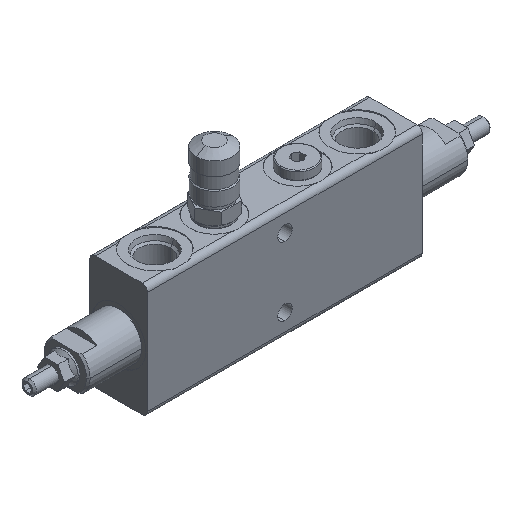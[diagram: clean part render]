
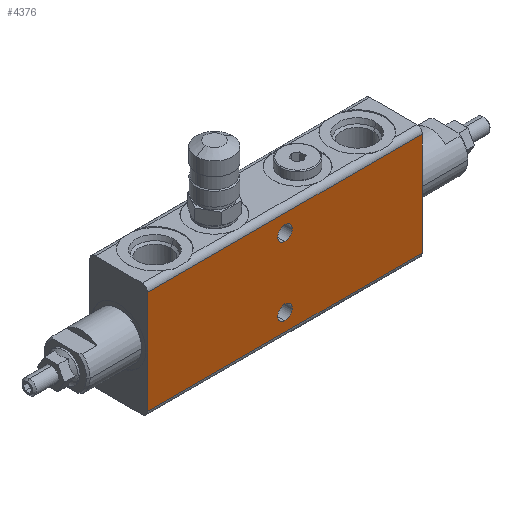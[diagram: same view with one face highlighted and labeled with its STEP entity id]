
A CAD part, isometric view. The second image highlights one B-rep face of the part: STEP entity #4376.
In plain terms, the highlighted planar face has unit normal (0, -1, 0).
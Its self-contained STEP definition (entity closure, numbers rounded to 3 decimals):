
#69 = PLANE ( 'NONE',  #595 ) ;
#71 = LINE ( 'NONE', #5950, #2095 ) ;
#125 = DIRECTION ( 'NONE',  ( 0., 1., 0. ) ) ;
#193 = CARTESIAN_POINT ( 'NONE',  ( 0., -16., -23. ) ) ;
#306 = EDGE_LOOP ( 'NONE', ( #2436, #6183, #2842, #5308 ) ) ;
#450 = VERTEX_POINT ( 'NONE', #193 ) ;
#574 = DIRECTION ( 'NONE',  ( 0., 0., 1. ) ) ;
#595 = AXIS2_PLACEMENT_3D ( 'NONE', #2444, #4952, #3917 ) ;
#713 = VECTOR ( 'NONE', #1424, 1000. ) ;
#783 = CARTESIAN_POINT ( 'NONE',  ( 0., -16., 19. ) ) ;
#920 = CARTESIAN_POINT ( 'NONE',  ( -76., -16., 28.5 ) ) ;
#1012 = EDGE_LOOP ( 'NONE', ( #1166, #2750 ) ) ;
#1020 = EDGE_CURVE ( 'NONE', #1234, #3742, #2278, .T. ) ;
#1037 = CIRCLE ( 'NONE', #4581, 4. ) ;
#1061 = FACE_OUTER_BOUND ( 'NONE', #306, .T. ) ;
#1087 = FACE_BOUND ( 'NONE', #4680, .T. ) ;
#1163 = LINE ( 'NONE', #3936, #2665 ) ;
#1166 = ORIENTED_EDGE ( 'NONE', *, *, #2365, .T. ) ;
#1176 = CARTESIAN_POINT ( 'NONE',  ( 0., -16., -19. ) ) ;
#1234 = VERTEX_POINT ( 'NONE', #5973 ) ;
#1280 = EDGE_CURVE ( 'NONE', #450, #4335, #1037, .T. ) ;
#1424 = DIRECTION ( 'NONE',  ( 1., 0., 0. ) ) ;
#1433 = EDGE_CURVE ( 'NONE', #4335, #450, #4001, .T. ) ;
#1520 = DIRECTION ( 'NONE',  ( 0., 0., -1. ) ) ;
#1638 = VECTOR ( 'NONE', #1687, 1000. ) ;
#1668 = EDGE_CURVE ( 'NONE', #1234, #5294, #1163, .T. ) ;
#1687 = DIRECTION ( 'NONE',  ( -1., 0., 0. ) ) ;
#2021 = DIRECTION ( 'NONE',  ( 0., 1., 0. ) ) ;
#2095 = VECTOR ( 'NONE', #574, 1000. ) ;
#2245 = VERTEX_POINT ( 'NONE', #4868 ) ;
#2278 = LINE ( 'NONE', #4677, #1638 ) ;
#2365 = EDGE_CURVE ( 'NONE', #4409, #5293, #2818, .T. ) ;
#2436 = ORIENTED_EDGE ( 'NONE', *, *, #5590, .F. ) ;
#2444 = CARTESIAN_POINT ( 'NONE',  ( 76., -16., -31.5 ) ) ;
#2635 = CARTESIAN_POINT ( 'NONE',  ( 76., -16., -28.5 ) ) ;
#2665 = VECTOR ( 'NONE', #1520, 1000. ) ;
#2673 = DIRECTION ( 'NONE',  ( 0., 1., 0. ) ) ;
#2709 = EDGE_CURVE ( 'NONE', #5293, #4409, #2789, .T. ) ;
#2750 = ORIENTED_EDGE ( 'NONE', *, *, #2709, .T. ) ;
#2789 = CIRCLE ( 'NONE', #3925, 4. ) ;
#2818 = CIRCLE ( 'NONE', #4053, 4. ) ;
#2842 = ORIENTED_EDGE ( 'NONE', *, *, #1668, .F. ) ;
#2923 = FACE_BOUND ( 'NONE', #1012, .T. ) ;
#3102 = CARTESIAN_POINT ( 'NONE',  ( 0., -16., 19. ) ) ;
#3180 = AXIS2_PLACEMENT_3D ( 'NONE', #3199, #3649, #5567 ) ;
#3199 = CARTESIAN_POINT ( 'NONE',  ( 0., -16., -19. ) ) ;
#3649 = DIRECTION ( 'NONE',  ( 0., 1., 0. ) ) ;
#3709 = CARTESIAN_POINT ( 'NONE',  ( 76., -16., -28.5 ) ) ;
#3742 = VERTEX_POINT ( 'NONE', #920 ) ;
#3917 = DIRECTION ( 'NONE',  ( 0., 0., -1. ) ) ;
#3925 = AXIS2_PLACEMENT_3D ( 'NONE', #783, #2673, #6179 ) ;
#3936 = CARTESIAN_POINT ( 'NONE',  ( 76., -16., 31.5 ) ) ;
#4001 = CIRCLE ( 'NONE', #3180, 4. ) ;
#4053 = AXIS2_PLACEMENT_3D ( 'NONE', #3102, #2021, #4075 ) ;
#4075 = DIRECTION ( 'NONE',  ( 0., 0., 1. ) ) ;
#4090 = CARTESIAN_POINT ( 'NONE',  ( 0., -16., -15. ) ) ;
#4294 = ORIENTED_EDGE ( 'NONE', *, *, #1433, .T. ) ;
#4335 = VERTEX_POINT ( 'NONE', #4090 ) ;
#4376 = ADVANCED_FACE ( 'NONE', ( #2923, #1087, #1061 ), #69, .T. ) ;
#4409 = VERTEX_POINT ( 'NONE', #5851 ) ;
#4581 = AXIS2_PLACEMENT_3D ( 'NONE', #1176, #125, #5508 ) ;
#4677 = CARTESIAN_POINT ( 'NONE',  ( -76., -16., 28.5 ) ) ;
#4680 = EDGE_LOOP ( 'NONE', ( #4294, #6021 ) ) ;
#4727 = LINE ( 'NONE', #3709, #713 ) ;
#4868 = CARTESIAN_POINT ( 'NONE',  ( -76., -16., -28.5 ) ) ;
#4952 = DIRECTION ( 'NONE',  ( 0., -1., 0. ) ) ;
#5006 = EDGE_CURVE ( 'NONE', #2245, #5294, #4727, .T. ) ;
#5059 = CARTESIAN_POINT ( 'NONE',  ( 0., -16., 15. ) ) ;
#5293 = VERTEX_POINT ( 'NONE', #5059 ) ;
#5294 = VERTEX_POINT ( 'NONE', #2635 ) ;
#5308 = ORIENTED_EDGE ( 'NONE', *, *, #1020, .T. ) ;
#5508 = DIRECTION ( 'NONE',  ( 0., 0., 1. ) ) ;
#5567 = DIRECTION ( 'NONE',  ( 0., 0., 1. ) ) ;
#5590 = EDGE_CURVE ( 'NONE', #2245, #3742, #71, .T. ) ;
#5851 = CARTESIAN_POINT ( 'NONE',  ( 0., -16., 23. ) ) ;
#5950 = CARTESIAN_POINT ( 'NONE',  ( -76., -16., 31.5 ) ) ;
#5973 = CARTESIAN_POINT ( 'NONE',  ( 76., -16., 28.5 ) ) ;
#6021 = ORIENTED_EDGE ( 'NONE', *, *, #1280, .T. ) ;
#6179 = DIRECTION ( 'NONE',  ( 0., 0., 1. ) ) ;
#6183 = ORIENTED_EDGE ( 'NONE', *, *, #5006, .T. ) ;
